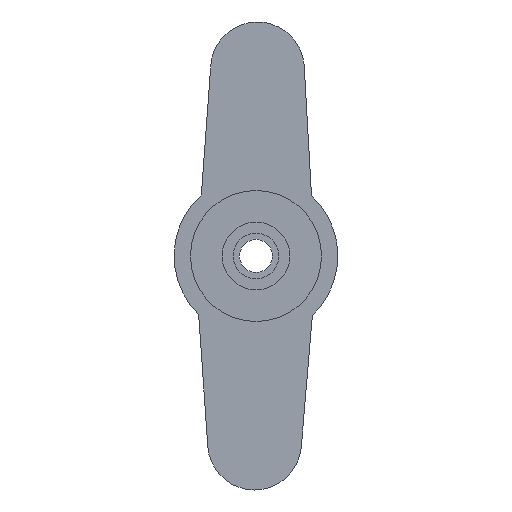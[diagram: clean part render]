
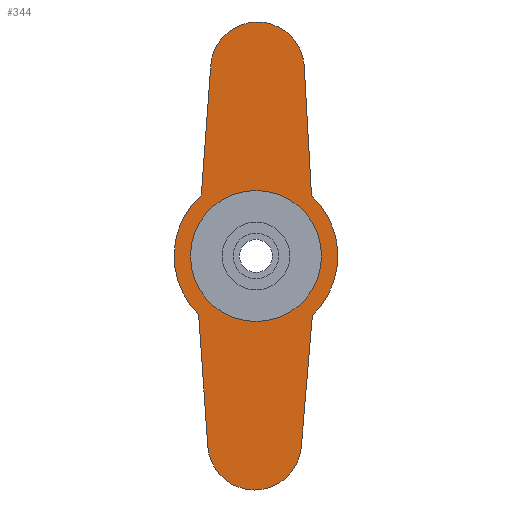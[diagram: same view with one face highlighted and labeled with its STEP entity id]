
A CAD part, left-side view. The second image highlights one B-rep face of the part: STEP entity #344.
In plain terms, the highlighted planar face has unit normal (-1, 0, 0).
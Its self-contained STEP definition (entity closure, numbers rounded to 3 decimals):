
#19=FACE_BOUND('',#77,.T.);
#30=PLANE('',#399);
#51=FACE_OUTER_BOUND('',#76,.T.);
#76=EDGE_LOOP('',(#293,#294,#295,#296,#297,#298,#299,#300,#301,#302));
#77=EDGE_LOOP('',(#303));
#87=LINE('',#550,#112);
#91=LINE('',#562,#116);
#95=LINE('',#574,#120);
#99=LINE('',#586,#124);
#103=LINE('',#598,#128);
#112=VECTOR('',#446,10.);
#116=VECTOR('',#458,10.);
#120=VECTOR('',#470,10.);
#124=VECTOR('',#482,10.);
#128=VECTOR('',#494,10.);
#135=CIRCLE('',#369,5.6);
#141=CIRCLE('',#380,4.006);
#143=CIRCLE('',#384,4.006);
#145=CIRCLE('',#388,7.);
#147=CIRCLE('',#392,4.005);
#149=CIRCLE('',#396,7.);
#155=VERTEX_POINT('',#527);
#162=VERTEX_POINT('',#547);
#163=VERTEX_POINT('',#549);
#165=VERTEX_POINT('',#555);
#167=VERTEX_POINT('',#561);
#169=VERTEX_POINT('',#567);
#171=VERTEX_POINT('',#573);
#173=VERTEX_POINT('',#579);
#175=VERTEX_POINT('',#585);
#177=VERTEX_POINT('',#591);
#179=VERTEX_POINT('',#597);
#188=EDGE_CURVE('',#155,#155,#135,.T.);
#197=EDGE_CURVE('',#163,#162,#87,.T.);
#200=EDGE_CURVE('',#165,#163,#141,.T.);
#203=EDGE_CURVE('',#167,#165,#91,.T.);
#206=EDGE_CURVE('',#169,#167,#143,.T.);
#209=EDGE_CURVE('',#171,#169,#95,.T.);
#212=EDGE_CURVE('',#173,#171,#145,.T.);
#215=EDGE_CURVE('',#175,#173,#99,.T.);
#218=EDGE_CURVE('',#177,#175,#147,.T.);
#221=EDGE_CURVE('',#179,#177,#103,.T.);
#224=EDGE_CURVE('',#162,#179,#149,.T.);
#293=ORIENTED_EDGE('',*,*,#224,.T.);
#294=ORIENTED_EDGE('',*,*,#221,.T.);
#295=ORIENTED_EDGE('',*,*,#218,.T.);
#296=ORIENTED_EDGE('',*,*,#215,.T.);
#297=ORIENTED_EDGE('',*,*,#212,.T.);
#298=ORIENTED_EDGE('',*,*,#209,.T.);
#299=ORIENTED_EDGE('',*,*,#206,.T.);
#300=ORIENTED_EDGE('',*,*,#203,.T.);
#301=ORIENTED_EDGE('',*,*,#200,.T.);
#302=ORIENTED_EDGE('',*,*,#197,.T.);
#303=ORIENTED_EDGE('',*,*,#188,.F.);
#344=ADVANCED_FACE('',(#51,#19),#30,.F.);
#369=AXIS2_PLACEMENT_3D('',#529,#424,#425);
#380=AXIS2_PLACEMENT_3D('',#556,#452,#453);
#384=AXIS2_PLACEMENT_3D('',#568,#464,#465);
#388=AXIS2_PLACEMENT_3D('',#580,#476,#477);
#392=AXIS2_PLACEMENT_3D('',#592,#488,#489);
#396=AXIS2_PLACEMENT_3D('',#602,#500,#501);
#399=AXIS2_PLACEMENT_3D('',#605,#506,#507);
#424=DIRECTION('center_axis',(-1.,0.,0.));
#425=DIRECTION('ref_axis',(0.,-1.,0.));
#446=DIRECTION('',(0.,0.072,-0.997));
#452=DIRECTION('center_axis',(-1.,0.,0.));
#453=DIRECTION('ref_axis',(0.,-1.,0.031));
#458=DIRECTION('',(0.,0.056,0.998));
#464=DIRECTION('center_axis',(-1.,0.,0.));
#465=DIRECTION('ref_axis',(0.,-1.,0.031));
#470=DIRECTION('',(0.,0.056,0.998));
#476=DIRECTION('center_axis',(-1.,0.,0.));
#477=DIRECTION('ref_axis',(0.,-0.688,-0.726));
#482=DIRECTION('',(0.,-0.084,0.996));
#488=DIRECTION('center_axis',(-1.,0.,0.));
#489=DIRECTION('ref_axis',(0.,0.998,-0.069));
#494=DIRECTION('',(0.,-0.069,-0.998));
#500=DIRECTION('center_axis',(-1.,0.,0.));
#501=DIRECTION('ref_axis',(0.,0.667,0.745));
#506=DIRECTION('center_axis',(1.,0.,0.));
#507=DIRECTION('ref_axis',(0.,-1.,-0.007));
#527=CARTESIAN_POINT('',(-42.,15.6,10.));
#529=CARTESIAN_POINT('Origin',(-42.,10.,10.));
#547=CARTESIAN_POINT('',(-42.,14.67,15.215));
#549=CARTESIAN_POINT('',(-42.,13.882,26.058));
#550=CARTESIAN_POINT('',(-42.,14.67,15.215));
#555=CARTESIAN_POINT('',(-42.,5.88,26.275));
#556=CARTESIAN_POINT('Origin',(-42.,9.876,25.994));
#561=CARTESIAN_POINT('',(-42.,5.874,26.16));
#562=CARTESIAN_POINT('',(-42.,5.258,15.149));
#567=CARTESIAN_POINT('',(-42.,5.872,26.119));
#568=CARTESIAN_POINT('Origin',(-42.,9.876,25.994));
#573=CARTESIAN_POINT('',(-42.,5.258,15.149));
#574=CARTESIAN_POINT('',(-42.,5.258,15.149));
#579=CARTESIAN_POINT('',(-42.,5.183,4.921));
#580=CARTESIAN_POINT('Origin',(-42.,10.,10.));
#585=CARTESIAN_POINT('',(-42.,6.132,-6.331));
#586=CARTESIAN_POINT('',(-42.,5.183,4.921));
#591=CARTESIAN_POINT('',(-42.,14.117,-6.273));
#592=CARTESIAN_POINT('Origin',(-42.,10.122,-5.995));
#597=CARTESIAN_POINT('',(-42.,14.901,5.002));
#598=CARTESIAN_POINT('',(-42.,14.117,-6.273));
#602=CARTESIAN_POINT('Origin',(-42.,10.,10.));
#605=CARTESIAN_POINT('Origin',(-42.,10.,10.));
